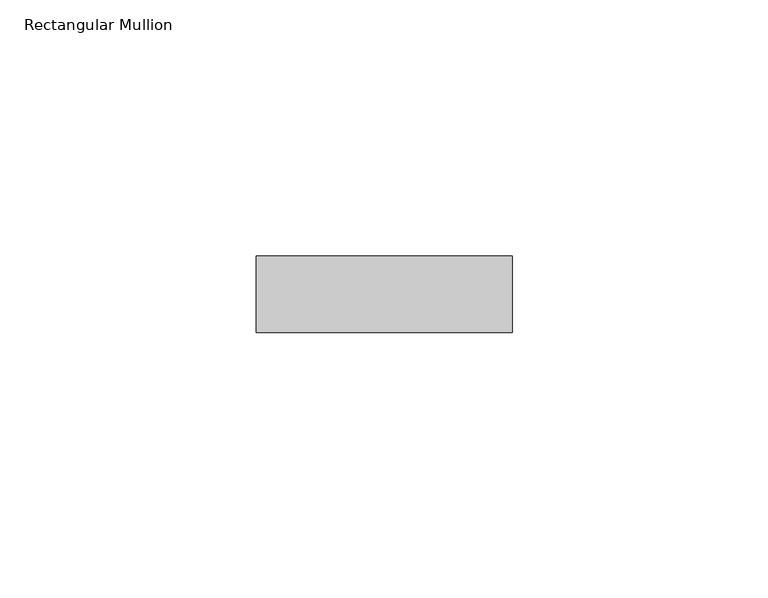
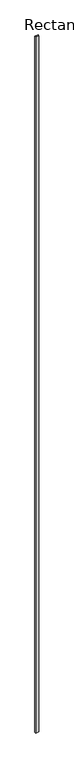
"""IFC4 building model written with IfcOpenShell, lengths in millimetres: member geometry, Rectangular Mullion : Ripa."""

from ifc_helpers import new_model, si_unit, frame, origin, place, context, project, spatial, polyline, outline, extrude, source, transform, mapped, element, save


def rectangular_mullion_04d0059c(model_context):
    return source(origin(), model_context, "Body", "SweptSolid", [
        extrude(outline(polyline([(-50.0, -75.0), (-50.0, -60.0), (0.0, -60.0), (0.0, -75.0), (-50.0, -75.0)])), frame((0.0, 0.0, -10660.1380994), z_axis=(0.0, 0.0, 1.0), x_axis=(1.0, 0.0, 0.0)), (0.0, 0.0, 1.0), 10660.1380994),
    ])


if __name__ == "__main__":
    model = new_model("IFC4")
    model_context = context("Model", 3, world=origin())
    ifc_project = project(units=[si_unit("LENGTHUNIT", "METRE", prefix="MILLI")], contexts=[model_context])
    site = spatial("IfcSite", under=ifc_project)
    building = spatial("IfcBuilding", under=site)
    placement = place(None, origin())
    rectangular_mullion_shape = rectangular_mullion_04d0059c(model_context)
    element("IfcMember", 1, ObjectType="Rectangular Mullion : Ripa", at=placement, inside=building, context=model_context, shape_type="MappedRepresentation", body=[
        mapped(rectangular_mullion_shape, transform((0.0, 0.0, 0.0), x_axis=(1.0, 0.0, 0.0), y_axis=(0.0, 1.0, 0.0), z_axis=(0.0, 0.0, 1.0))),
    ])
    save(model, "model.ifc")
